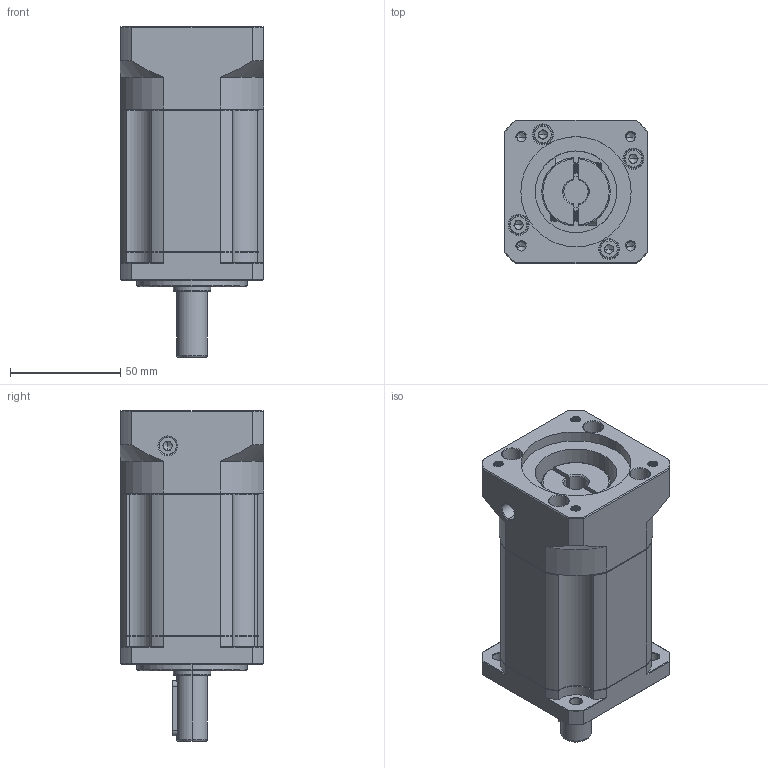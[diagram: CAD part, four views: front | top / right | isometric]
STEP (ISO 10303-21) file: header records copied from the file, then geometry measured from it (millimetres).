
FILE_DESCRIPTION (( 'STEP AP214' ), '1' );
FILE_NAME ('ZB60-D14-L3-11-50-70-M5.STEP', '2022-04-17T07:32:28', ( '' ), ( 'Microsoft' ), 'SwSTEP 2.0', 'SolidWorks 2016', '' );
FILE_SCHEMA (( 'AUTOMOTIVE_DESIGN' ));
Length unit declared in the file: millimetre
Products named in the file (1): ZB60-D14-L3-11-50-70-M5
Bounding box: 65 x 65 x 150 mm (x, y, z)
Volume: 389929.7 mm3; surface area: 62787.9 mm2
Topology: 6 solids, 6 shells, 1886 faces, 5005 edges, 3202 vertices
Faces by surface type: plane 879, cylinder 393, bspline 299, cone 279, torus 36
Entity records: 101669 total; most frequent: CARTESIAN_POINT 36516, ORIENTED_EDGE 9950, DIRECTION 8147, EDGE_CURVE 4975, VERTEX_POINT 3202, VECTOR 3033, LINE 3033, AXIS2_PLACEMENT_3D 2557
